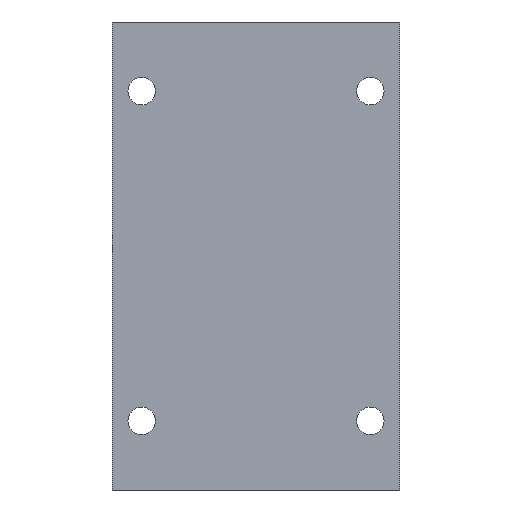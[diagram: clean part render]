
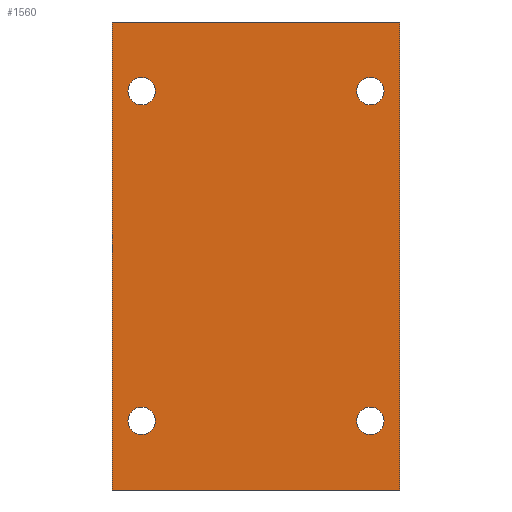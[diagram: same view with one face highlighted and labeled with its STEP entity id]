
A CAD part, front view. The second image highlights one B-rep face of the part: STEP entity #1560.
In plain terms, the highlighted planar face has unit normal (0, -1, 0).
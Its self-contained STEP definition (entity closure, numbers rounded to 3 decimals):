
#26 = CIRCLE ( 'NONE', #1935, 5.15 ) ;
#49 = EDGE_LOOP ( 'NONE', ( #2075, #2199 ) ) ;
#53 = DIRECTION ( 'NONE',  ( 0., -1., 0. ) ) ;
#59 = EDGE_LOOP ( 'NONE', ( #2220, #1735, #3052, #925 ) ) ;
#155 = DIRECTION ( 'NONE',  ( 0., 0., -1. ) ) ;
#158 = VERTEX_POINT ( 'NONE', #2539 ) ;
#189 = CARTESIAN_POINT ( 'NONE',  ( -54., -38.5, -88. ) ) ;
#193 = EDGE_CURVE ( 'NONE', #158, #1139, #1549, .T. ) ;
#310 = VERTEX_POINT ( 'NONE', #733 ) ;
#314 = CARTESIAN_POINT ( 'NONE',  ( 43., -38.5, 56.85 ) ) ;
#321 = VERTEX_POINT ( 'NONE', #2396 ) ;
#332 = CIRCLE ( 'NONE', #2086, 5.15 ) ;
#465 = VERTEX_POINT ( 'NONE', #879 ) ;
#476 = VERTEX_POINT ( 'NONE', #2107 ) ;
#480 = VECTOR ( 'NONE', #1257, 1000. ) ;
#483 = VERTEX_POINT ( 'NONE', #1339 ) ;
#492 = AXIS2_PLACEMENT_3D ( 'NONE', #1241, #53, #554 ) ;
#494 = CARTESIAN_POINT ( 'NONE',  ( -43., -38.5, -67.15 ) ) ;
#528 = EDGE_CURVE ( 'NONE', #1849, #321, #2675, .T. ) ;
#543 = DIRECTION ( 'NONE',  ( 0., 0., -1. ) ) ;
#554 = DIRECTION ( 'NONE',  ( 0., 0., -1. ) ) ;
#559 = AXIS2_PLACEMENT_3D ( 'NONE', #2850, #1658, #2620 ) ;
#571 = CARTESIAN_POINT ( 'NONE',  ( 54., -38.5, 88. ) ) ;
#582 = DIRECTION ( 'NONE',  ( 0., 0., -1. ) ) ;
#601 = FACE_BOUND ( 'NONE', #49, .T. ) ;
#733 = CARTESIAN_POINT ( 'NONE',  ( 54., -38.5, -88. ) ) ;
#746 = CARTESIAN_POINT ( 'NONE',  ( -54., -38.5, 88. ) ) ;
#757 = AXIS2_PLACEMENT_3D ( 'NONE', #1765, #2726, #582 ) ;
#787 = VERTEX_POINT ( 'NONE', #2446 ) ;
#816 = EDGE_CURVE ( 'NONE', #2809, #310, #2228, .T. ) ;
#825 = PLANE ( 'NONE',  #1930 ) ;
#862 = ORIENTED_EDGE ( 'NONE', *, *, #2059, .F. ) ;
#879 = CARTESIAN_POINT ( 'NONE',  ( -43., -38.5, 67.15 ) ) ;
#925 = ORIENTED_EDGE ( 'NONE', *, *, #528, .T. ) ;
#1026 = CARTESIAN_POINT ( 'NONE',  ( -54., -38.5, 88. ) ) ;
#1041 = DIRECTION ( 'NONE',  ( 0., -1., 0. ) ) ;
#1045 = EDGE_LOOP ( 'NONE', ( #2976, #1145 ) ) ;
#1086 = CARTESIAN_POINT ( 'NONE',  ( 43., -38.5, -56.85 ) ) ;
#1134 = EDGE_CURVE ( 'NONE', #1299, #787, #332, .T. ) ;
#1138 = CARTESIAN_POINT ( 'NONE',  ( -43., -38.5, 62. ) ) ;
#1139 = VERTEX_POINT ( 'NONE', #314 ) ;
#1145 = ORIENTED_EDGE ( 'NONE', *, *, #1134, .F. ) ;
#1167 = AXIS2_PLACEMENT_3D ( 'NONE', #1138, #2341, #1333 ) ;
#1216 = VECTOR ( 'NONE', #2661, 1000. ) ;
#1241 = CARTESIAN_POINT ( 'NONE',  ( -43., -38.5, 62. ) ) ;
#1253 = CARTESIAN_POINT ( 'NONE',  ( 43., -38.5, -62. ) ) ;
#1254 = FACE_BOUND ( 'NONE', #1045, .T. ) ;
#1257 = DIRECTION ( 'NONE',  ( 0., 0., -1. ) ) ;
#1269 = FACE_BOUND ( 'NONE', #2798, .T. ) ;
#1299 = VERTEX_POINT ( 'NONE', #1086 ) ;
#1333 = DIRECTION ( 'NONE',  ( 0., 0., -1. ) ) ;
#1339 = CARTESIAN_POINT ( 'NONE',  ( -43., -38.5, 56.85 ) ) ;
#1367 = EDGE_CURVE ( 'NONE', #476, #2678, #26, .T. ) ;
#1376 = EDGE_CURVE ( 'NONE', #321, #310, #1688, .T. ) ;
#1420 = CIRCLE ( 'NONE', #492, 5.15 ) ;
#1447 = LINE ( 'NONE', #3079, #3015 ) ;
#1549 = CIRCLE ( 'NONE', #757, 5.15 ) ;
#1560 = ADVANCED_FACE ( 'NONE', ( #1254, #1722, #2965, #601, #1269 ), #825, .F. ) ;
#1598 = EDGE_CURVE ( 'NONE', #483, #465, #1420, .T. ) ;
#1604 = DIRECTION ( 'NONE',  ( 0., -1., 0. ) ) ;
#1640 = CARTESIAN_POINT ( 'NONE',  ( -43., -38.5, -62. ) ) ;
#1658 = DIRECTION ( 'NONE',  ( 0., -1., 0. ) ) ;
#1682 = AXIS2_PLACEMENT_3D ( 'NONE', #1791, #1604, #155 ) ;
#1688 = LINE ( 'NONE', #189, #1988 ) ;
#1708 = DIRECTION ( 'NONE',  ( 0., 0., -1. ) ) ;
#1722 = FACE_OUTER_BOUND ( 'NONE', #59, .T. ) ;
#1728 = AXIS2_PLACEMENT_3D ( 'NONE', #2925, #2020, #543 ) ;
#1735 = ORIENTED_EDGE ( 'NONE', *, *, #816, .F. ) ;
#1755 = CARTESIAN_POINT ( 'NONE',  ( 54., -38.5, 88. ) ) ;
#1765 = CARTESIAN_POINT ( 'NONE',  ( 43., -38.5, 62. ) ) ;
#1781 = DIRECTION ( 'NONE',  ( 0., 0., 1. ) ) ;
#1791 = CARTESIAN_POINT ( 'NONE',  ( 43., -38.5, 62. ) ) ;
#1849 = VERTEX_POINT ( 'NONE', #746 ) ;
#1871 = DIRECTION ( 'NONE',  ( 0., -1., 0. ) ) ;
#1930 = AXIS2_PLACEMENT_3D ( 'NONE', #1026, #2940, #1781 ) ;
#1935 = AXIS2_PLACEMENT_3D ( 'NONE', #1640, #1871, #2646 ) ;
#1960 = ORIENTED_EDGE ( 'NONE', *, *, #1598, .F. ) ;
#1988 = VECTOR ( 'NONE', #2373, 1000. ) ;
#2020 = DIRECTION ( 'NONE',  ( 0., -1., 0. ) ) ;
#2059 = EDGE_CURVE ( 'NONE', #1139, #158, #3021, .T. ) ;
#2074 = CIRCLE ( 'NONE', #1167, 5.15 ) ;
#2075 = ORIENTED_EDGE ( 'NONE', *, *, #3102, .F. ) ;
#2086 = AXIS2_PLACEMENT_3D ( 'NONE', #1253, #1041, #1708 ) ;
#2107 = CARTESIAN_POINT ( 'NONE',  ( -43., -38.5, -56.85 ) ) ;
#2158 = CARTESIAN_POINT ( 'NONE',  ( -54., -38.5, 88. ) ) ;
#2199 = ORIENTED_EDGE ( 'NONE', *, *, #1367, .F. ) ;
#2220 = ORIENTED_EDGE ( 'NONE', *, *, #1376, .T. ) ;
#2228 = LINE ( 'NONE', #571, #480 ) ;
#2262 = CIRCLE ( 'NONE', #559, 5.15 ) ;
#2341 = DIRECTION ( 'NONE',  ( 0., -1., 0. ) ) ;
#2373 = DIRECTION ( 'NONE',  ( 1., 0., 0. ) ) ;
#2396 = CARTESIAN_POINT ( 'NONE',  ( -54., -38.5, -88. ) ) ;
#2415 = DIRECTION ( 'NONE',  ( 1., 0., 0. ) ) ;
#2446 = CARTESIAN_POINT ( 'NONE',  ( 43., -38.5, -67.15 ) ) ;
#2481 = EDGE_CURVE ( 'NONE', #465, #483, #2074, .T. ) ;
#2539 = CARTESIAN_POINT ( 'NONE',  ( 43., -38.5, 67.15 ) ) ;
#2570 = ORIENTED_EDGE ( 'NONE', *, *, #193, .F. ) ;
#2593 = EDGE_CURVE ( 'NONE', #1849, #2809, #1447, .T. ) ;
#2620 = DIRECTION ( 'NONE',  ( 0., 0., -1. ) ) ;
#2646 = DIRECTION ( 'NONE',  ( 0., 0., -1. ) ) ;
#2661 = DIRECTION ( 'NONE',  ( 0., 0., -1. ) ) ;
#2675 = LINE ( 'NONE', #2158, #1216 ) ;
#2678 = VERTEX_POINT ( 'NONE', #494 ) ;
#2726 = DIRECTION ( 'NONE',  ( 0., -1., 0. ) ) ;
#2787 = EDGE_CURVE ( 'NONE', #787, #1299, #2827, .T. ) ;
#2798 = EDGE_LOOP ( 'NONE', ( #862, #2570 ) ) ;
#2809 = VERTEX_POINT ( 'NONE', #1755 ) ;
#2827 = CIRCLE ( 'NONE', #1728, 5.15 ) ;
#2850 = CARTESIAN_POINT ( 'NONE',  ( -43., -38.5, -62. ) ) ;
#2925 = CARTESIAN_POINT ( 'NONE',  ( 43., -38.5, -62. ) ) ;
#2940 = DIRECTION ( 'NONE',  ( 0., 1., 0. ) ) ;
#2965 = FACE_BOUND ( 'NONE', #2992, .T. ) ;
#2976 = ORIENTED_EDGE ( 'NONE', *, *, #2787, .F. ) ;
#2992 = EDGE_LOOP ( 'NONE', ( #1960, #3094 ) ) ;
#3015 = VECTOR ( 'NONE', #2415, 1000. ) ;
#3021 = CIRCLE ( 'NONE', #1682, 5.15 ) ;
#3052 = ORIENTED_EDGE ( 'NONE', *, *, #2593, .F. ) ;
#3079 = CARTESIAN_POINT ( 'NONE',  ( -54., -38.5, 88. ) ) ;
#3094 = ORIENTED_EDGE ( 'NONE', *, *, #2481, .F. ) ;
#3102 = EDGE_CURVE ( 'NONE', #2678, #476, #2262, .T. ) ;
